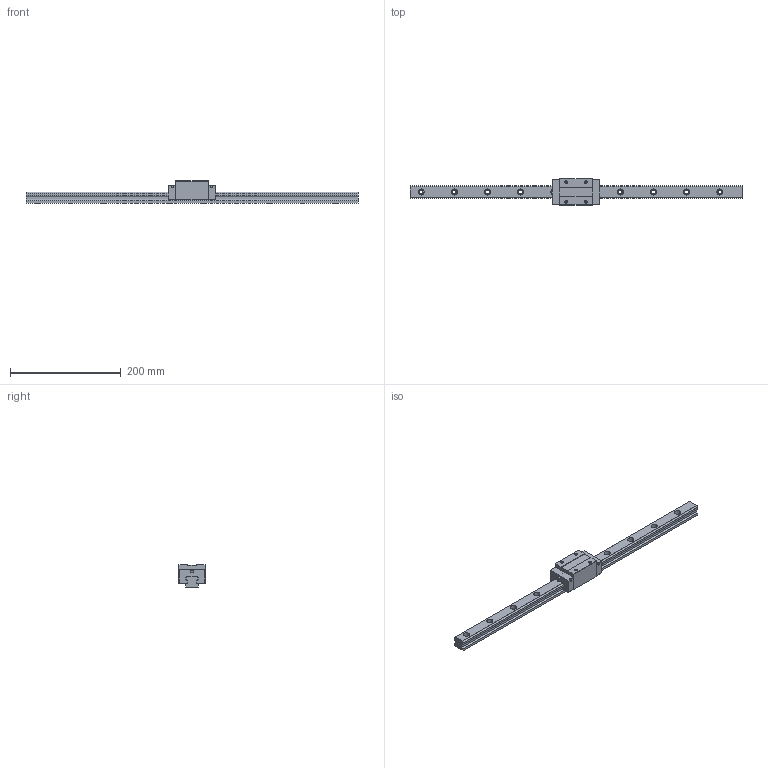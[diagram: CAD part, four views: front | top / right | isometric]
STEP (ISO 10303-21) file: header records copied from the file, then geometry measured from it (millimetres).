
FILE_DESCRIPTION (( 'STEP AP203' ), '1' );
FILE_NAME ('TRH25VN-SU.STEP', '2024-06-26T03:40:04', ( '' ), ( '' ), 'SwSTEP 2.0', 'SolidWorks 2022', '' );
FILE_SCHEMA (( 'CONFIG_CONTROL_DESIGN' ));
Length unit declared in the file: millimetre
Products named in the file (1): TRH25VN-SU
Bounding box: 600 x 48 x 40 mm (x, y, z)
Volume: 338263.2 mm3; surface area: 78716.5 mm2
Topology: 2 solids, 2 shells, 200 faces, 520 edges, 336 vertices
Faces by surface type: cylinder 96, plane 88, cone 16
Entity records: 6223 total; most frequent: DIRECTION 1114, CARTESIAN_POINT 1049, ORIENTED_EDGE 1024, EDGE_CURVE 512, AXIS2_PLACEMENT_3D 401, VERTEX_POINT 336, VECTOR 312, LINE 312
